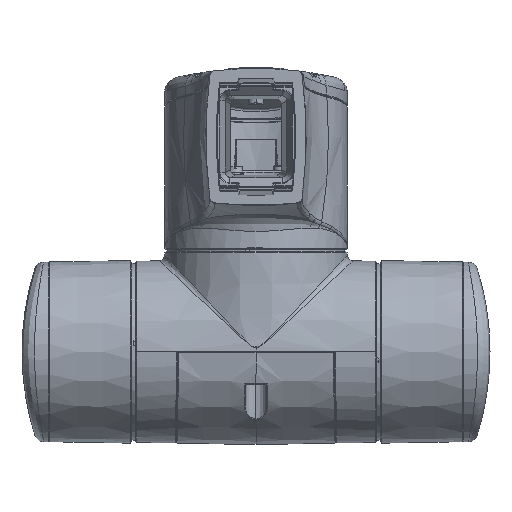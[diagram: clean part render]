
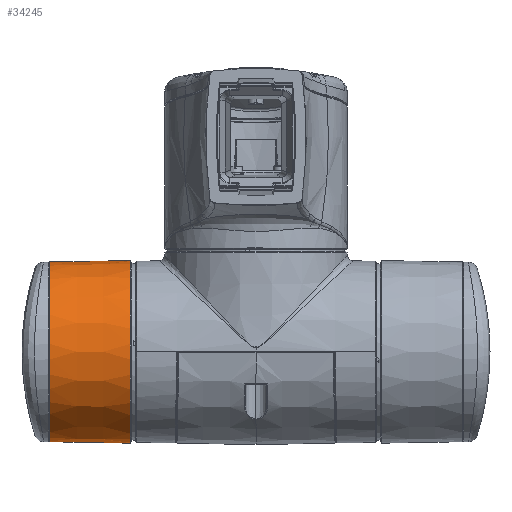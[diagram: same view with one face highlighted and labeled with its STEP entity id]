
A CAD part, top view. The second image highlights one B-rep face of the part: STEP entity #34245.
In plain terms, the highlighted conical face has half-angle 1 degrees and reference radius 49.685 mm.
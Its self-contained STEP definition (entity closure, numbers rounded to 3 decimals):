
#23625=CARTESIAN_POINT('',(-112.886,-55.,0.));
#23626=DIRECTION('',(-1.,0.,0.));
#23627=DIRECTION('',(0.,-0.999,-0.05));
#23628=AXIS2_PLACEMENT_3D('',#23625,#23626,#23627);
#23633=CARTESIAN_POINT('',(-68.969,-55.,0.));
#23634=DIRECTION('',(1.,0.,0.));
#23635=DIRECTION('',(0.,0.999,-0.05));
#23636=AXIS2_PLACEMENT_3D('',#23633,#23634,#23635);
#23641=DIRECTION('',(-1.,0.017,0.001));
#23642=VECTOR('',#23641,43.924);
#23643=CARTESIAN_POINT('',(-68.969,-105.007,
-2.481));
#23644=LINE('',#23643,#23642);
#23754=DIRECTION('',(-1.,-0.017,0.001));
#23755=VECTOR('',#23754,43.924);
#23756=CARTESIAN_POINT('',(-68.969,-4.993,
-2.481));
#23757=LINE('',#23756,#23755);
#32494=CARTESIAN_POINT('',(-112.886,-104.241,
-2.443));
#32495=VERTEX_POINT('',#32494);
#32498=CARTESIAN_POINT('',(-112.886,-5.759,
-2.443));
#32499=VERTEX_POINT('',#32498);
#32538=CARTESIAN_POINT('',(-68.969,-4.993,
-2.481));
#32539=CARTESIAN_POINT('',(-68.969,-105.007,
-2.481));
#32540=VERTEX_POINT('',#32538);
#32541=VERTEX_POINT('',#32539);
#34230=CARTESIAN_POINT('',(-90.927,-55.,0.));
#34231=DIRECTION('',(1.,0.,0.));
#34232=DIRECTION('',(0.,0.,1.));
#34233=AXIS2_PLACEMENT_3D('',#34230,#34231,#34232);
#34234=CONICAL_SURFACE('',#34233,49.685,1.);
#34236=ORIENTED_EDGE('',*,*,#34235,.T.);
#34238=ORIENTED_EDGE('',*,*,#34237,.F.);
#34240=ORIENTED_EDGE('',*,*,#34239,.T.);
#34242=ORIENTED_EDGE('',*,*,#34241,.T.);
#34243=EDGE_LOOP('',(#34236,#34238,#34240,#34242));
#34244=FACE_OUTER_BOUND('',#34243,.F.);
#23629=CIRCLE('',#23628,49.302);
#23637=CIRCLE('',#23636,50.069);
#34235=EDGE_CURVE('',#32495,#32499,#23629,.T.);
#34237=EDGE_CURVE('',#32540,#32499,#23757,.T.);
#34239=EDGE_CURVE('',#32540,#32541,#23637,.T.);
#34241=EDGE_CURVE('',#32541,#32495,#23644,.T.);
#34245=ADVANCED_FACE('',(#34244),#34234,.T.);
